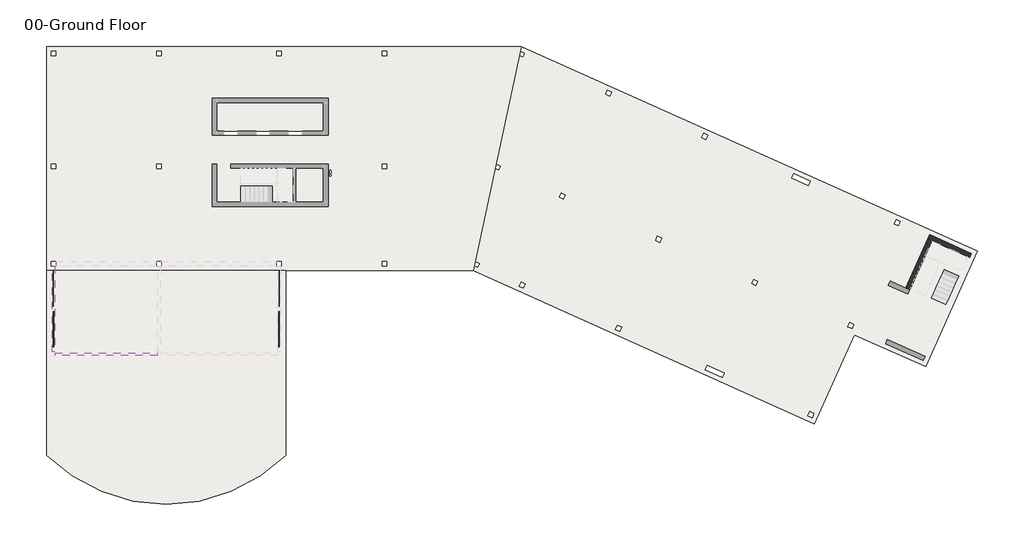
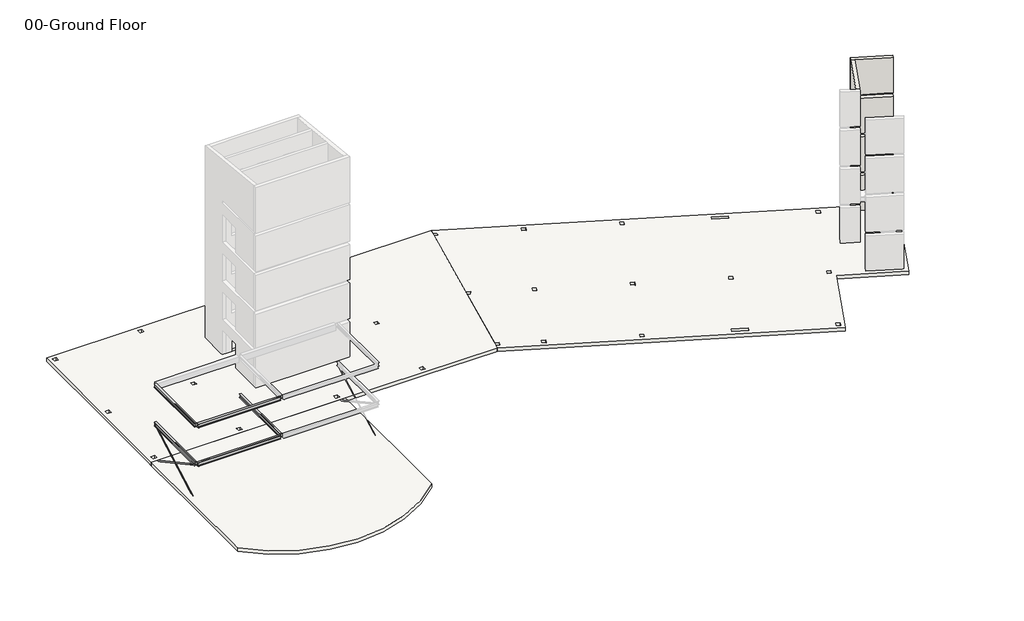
# One storey, part 2 of 5: 5 beams, 3 slabs, 2 members, 2 walls.
"""IFC4 building model written with IfcOpenShell, lengths in millimetres."""

from ifc_helpers import new_model, si_unit, frame, origin, place, context, project, spatial, polyline, circle_curve, faceted_brep, transform, mapped, element, save
from ifc_brep_helpers import plane_surface, cylinder_surface, revolved_surface, advanced_brep
from components import w_shapes_w12x26_268029d0, w_shapes_w12x26_8135fd55, flat_bars_fl_3_8x4_188fb4ee, flat_bars_fl_3_8x4_168c0369

model = new_model("IFC4")

# Units and contexts
model_context = context("Model", 3, world=origin())
ifc_project = project(units=[si_unit("LENGTHUNIT", "METRE", prefix="MILLI")], contexts=[model_context])

# Site, building, storey
site = spatial("IfcSite", under=ifc_project)
building = spatial("IfcBuilding", under=site)
storey = spatial("IfcBuildingStorey", under=building, Name="00-Ground Floor", Elevation=0.0)

# Beams
placement = place(None, origin())
w_shapes_w12x26_shape = w_shapes_w12x26_268029d0(model_context)
element("IfcBeam", 1, ObjectType="W Shapes : W12X26", at=placement, inside=storey, context=model_context, shape_type="MappedRepresentation", body=[
    mapped(w_shapes_w12x26_shape, transform((7010.4, -16998.95, 2994.66), x_axis=(0.0, 1.0, 0.0), y_axis=(-1.0, 0.0, 0.0), z_axis=(0.0, 0.0, 1.0))),
])
element("IfcBeam", 2, ObjectType="W Shapes : W12X26", at=placement, inside=storey, context=model_context, shape_type="MappedRepresentation", body=[
    mapped(w_shapes_w12x26_shape, transform((0.0, -16998.95, 2994.66), x_axis=(0.0, 1.0, 0.0), y_axis=(-1.0, 0.0, 0.0), z_axis=(0.0, 0.0, 1.0))),
])
element("IfcBeam", 3, ObjectType="W Shapes : W12X26", at=placement, inside=storey, context=model_context, shape_type="MappedRepresentation", body=[
    mapped(w_shapes_w12x26_shape, transform((0.0, -16998.95, 6347.46), x_axis=(0.0, 1.0, 0.0), y_axis=(-1.0, 0.0, 0.0), z_axis=(0.0, 0.0, 1.0))),
])
w_shapes_w12x26_2_shape = w_shapes_w12x26_8135fd55(model_context)
element("IfcBeam", 4, ObjectType="W Shapes : W12X26", at=placement, inside=storey, context=model_context, shape_type="MappedRepresentation", body=[
    mapped(w_shapes_w12x26_2_shape, transform((3505.2, -20002.5, 2994.66), x_axis=(-1.0, 0.0, 0.0), y_axis=(0.0, -1.0, 0.0), z_axis=(0.0, 0.0, 1.0))),
])
element("IfcBeam", 5, ObjectType="W Shapes : W12X26", at=placement, inside=storey, context=model_context, shape_type="MappedRepresentation", body=[
    mapped(w_shapes_w12x26_2_shape, transform((3505.2, -20002.5, 6347.46), x_axis=(-1.0, 0.0, 0.0), y_axis=(0.0, -1.0, 0.0), z_axis=(0.0, 0.0, 1.0))),
])

# Members
flat_bars_fl_3_8x4_shape = flat_bars_fl_3_8x4_188fb4ee(model_context)
element("IfcMember", 6, ObjectType="Flat Bars : FL 3/8X4", at=placement, inside=storey, context=model_context, shape_type="MappedRepresentation", body=[
    mapped(flat_bars_fl_3_8x4_shape, transform((9.525, -16998.95, 1344.93), x_axis=(0.0, 0.8764896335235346, 0.4814207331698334), y_axis=(-1.0, 0.0, 0.0), z_axis=(0.0, -0.4814207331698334, 0.8764896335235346))),
])
flat_bars_fl_3_8x4_2_shape = flat_bars_fl_3_8x4_168c0369(model_context)
element("IfcMember", 7, ObjectType="Flat Bars : FL 3/8X4", at=placement, inside=storey, context=model_context, shape_type="MappedRepresentation", body=[
    mapped(flat_bars_fl_3_8x4_2_shape, transform((0.0, -16998.95, 1344.93), x_axis=(0.0, -0.8764896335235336, 0.48142073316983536), y_axis=(1.0, 0.0, 0.0), z_axis=(0.0, 0.48142073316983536, 0.8764896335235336))),
])

# Slabs
element("IfcSlab", 8, ObjectType="RC Slab 12\"", at=placement, inside=storey, context=model_context, shape_type="SolidModel", body=[
    faceted_brep([(10858.5, -3289.3, -304.8), (12738.1, -3289.3, -304.8), (12992.1, -3289.3, -304.8), (14871.7, -3289.3, -304.8), (15125.7, -3289.3, -304.8), (17945.1, -3289.3, -304.8), (17945.1, -5168.9, -304.8), (15125.7, -5168.9, -304.8), (14871.7, -5168.9, -304.8), (12992.1, -5168.9, -304.8), (12738.1, -5168.9, -304.8), (10858.5, -5168.9, -304.8), (17945.1, -3289.3, 0.0), (15125.7, -3289.3, 0.0), (14871.7, -3289.3, 0.0), (12992.1, -3289.3, 0.0), (12738.1, -3289.3, 0.0), (10858.5, -3289.3, 0.0), (10858.5, -5168.9, 0.0), (12738.1, -5168.9, 0.0), (12992.1, -5168.9, 0.0), (14871.7, -5168.9, 0.0), (15125.7, -5168.9, 0.0), (17945.1, -5168.9, 0.0)], [[[0, 1, 2, 3, 4, 5, 6, 7, 8, 9, 10, 11]], [[12, 13, 14, 15, 16, 17, 18, 19, 20, 21, 22, 23]], [[5, 4, 3, 2, 1, 0, 17, 16, 15, 14, 13, 12]], [[0, 11, 18, 17]], [[6, 23, 22, 21, 20, 19, 18, 11, 10, 9, 8, 7]], [[6, 5, 12, 23]]]),
    advanced_brep(
    [(-457.2, 457.2, -304.8), (7010.4, 457.2, -304.8), (14998.7, 457.2, -304.8), (22009.1, 457.2, -304.8), (31098.7387393, 457.2, -304.8), (30902.7958822, -457.2, -304.8), (28099.7244536, -13538.2, -304.8), (27903.7815965, -14452.6, -304.8), (22009.1, -14452.6, -304.8), (15455.9, -14452.6, -304.8), (-457.2, -14452.6, -304.8), (-457.2, -13995.4, -304.8), (-457.2, -7505.7, -304.8), (18347.8020543, -8109.4381113, -304.8), (18449.4020543, -8109.4381113, -304.8), (18347.8020543, -7957.0381113, -304.8), (18449.4020543, -7957.0381113, -304.8), (18347.8020543, -7804.6381113, -304.8), (18449.4020543, -7804.6381113, -304.8), (152.4, -152.4, -304.8), (152.4, 152.4, -304.8), (-152.4, 152.4, -304.8), (-152.4, -152.4, -304.8), (7162.8, -152.4, -304.8), (7162.8, 152.4, -304.8), (6858.0, 152.4, -304.8), (6858.0, -152.4, -304.8), (15151.1, -152.4, -304.8), (15151.1, 152.4, -304.8), (14846.3, 152.4, -304.8), (14846.3, -152.4, -304.8), (22161.5, -152.4, -304.8), (22161.5, 152.4, -304.8), (21856.7, 152.4, -304.8), (21856.7, -152.4, -304.8), (22161.5, -7658.1, -304.8), (22161.5, -7353.3, -304.8), (21856.7, -7353.3, -304.8), (21856.7, -7658.1, -304.8), (7162.8, -7658.1, -304.8), (7162.8, -7353.3, -304.8), (6858.0, -7353.3, -304.8), (6858.0, -7658.1, -304.8), (152.4, -7658.1, -304.8), (152.4, -7353.3, -304.8), (-152.4, -7353.3, -304.8), (-152.4, -7658.1, -304.8), (152.4, -14147.8, -304.8), (152.4, -13843.0, -304.8), (-152.4, -13843.0, -304.8), (-152.4, -14147.8, -304.8), (15151.1, -14147.8, -304.8), (15151.1, -13843.0, -304.8), (14846.3, -13843.0, -304.8), (14846.3, -14147.8, -304.8), (22161.5, -14147.8, -304.8), (22161.5, -13843.0, -304.8), (21856.7, -13843.0, -304.8), (21856.7, -14147.8, -304.8), (7162.8, -14147.8, -304.8), (7162.8, -13843.0, -304.8), (6858.0, -13843.0, -304.8), (6858.0, -14147.8, -304.8), (10553.7, -5422.9, -304.8), (18249.9, -5422.9, -304.8), (18249.9, -2984.5, -304.8), (15252.7, -2984.5, -304.8), (14744.7, -2984.5, -304.8), (10553.7, -2984.5, -304.8), (31098.7387393, 457.2, 0.0), (-457.2, 457.2, 0.0), (-457.2, -14452.6, 0.0), (15455.9, -14452.6, 0.0), (27903.7815965, -14452.6, 0.0), (18449.4020543, -8109.4381113, 0.0), (18347.8020543, -8109.4381113, 0.0), (18449.4020543, -7957.0381113, 0.0), (18347.8020543, -7957.0381113, 0.0), (18449.4020543, -7804.6381113, 0.0), (18347.8020543, -7804.6381113, 0.0), (18249.9, -2984.5, 0.0), (18249.9, -3289.3, 0.0), (18249.9, -5422.9, 0.0), (17945.1, -5422.9, 0.0), (10553.7, -5422.9, 0.0), (10553.7, -5168.9, 0.0), (10553.7, -2984.5, 0.0), (10858.5, -2984.5, 0.0), (152.4, 152.4, 0.0), (152.4, -152.4, 0.0), (-152.4, -152.4, 0.0), (-152.4, 152.4, 0.0), (7162.8, 152.4, 0.0), (7162.8, -152.4, 0.0), (6858.0, -152.4, 0.0), (6858.0, 152.4, 0.0), (15151.1, 152.4, 0.0), (15151.1, -152.4, 0.0), (14846.3, -152.4, 0.0), (14846.3, 152.4, 0.0), (22161.5, 152.4, 0.0), (22161.5, -152.4, 0.0), (21856.7, -152.4, 0.0), (21856.7, 152.4, 0.0), (22161.5, -7353.3, 0.0), (22161.5, -7658.1, 0.0), (21856.7, -7658.1, 0.0), (21856.7, -7353.3, 0.0), (7162.8, -7353.3, 0.0), (7162.8, -7658.1, 0.0), (6858.0, -7658.1, 0.0), (6858.0, -7353.3, 0.0), (152.4, -7353.3, 0.0), (152.4, -7658.1, 0.0), (-152.4, -7658.1, 0.0), (-152.4, -7353.3, 0.0), (152.4, -13843.0, 0.0), (152.4, -14147.8, 0.0), (-152.4, -14147.8, 0.0), (-152.4, -13843.0, 0.0), (15151.1, -13843.0, 0.0), (15151.1, -14147.8, 0.0), (14846.3, -14147.8, 0.0), (14846.3, -13843.0, 0.0), (22161.5, -13843.0, 0.0), (22161.5, -14147.8, 0.0), (21856.7, -14147.8, 0.0), (21856.7, -13843.0, 0.0), (7162.8, -13843.0, 0.0), (7162.8, -14147.8, 0.0), (6858.0, -14147.8, 0.0), (6858.0, -13843.0, 0.0)],
    [
        (0, 1),
        (1, 2),
        (2, 3),
        (3, 4),
        (4, 5),
        (5, 6),
        (6, 7),
        (7, 8),
        (8, 9),
        (9, 10),
        (10, 11),
        (11, 12),
        (12, 0),
        (13, 14, circle_curve(frame((18398.6020543, -8109.4381113, -304.8), z_axis=(0.0, 0.0, 1.0), x_axis=(1.0, 0.0, 0.0)), 50.8)),
        (14, 13, circle_curve(frame((18398.6020543, -8109.4381113, -304.8), z_axis=(0.0, 0.0, 1.0), x_axis=(1.0, 0.0, 0.0)), 50.8)),
        (15, 16, circle_curve(frame((18398.6020543, -7957.0381113, -304.8), z_axis=(0.0, 0.0, 1.0), x_axis=(1.0, 0.0, 0.0)), 50.8)),
        (16, 15, circle_curve(frame((18398.6020543, -7957.0381113, -304.8), z_axis=(0.0, 0.0, 1.0), x_axis=(1.0, 0.0, 0.0)), 50.8)),
        (17, 18, circle_curve(frame((18398.6020543, -7804.6381113, -304.8), z_axis=(0.0, 0.0, 1.0), x_axis=(1.0, 0.0, 0.0)), 50.8)),
        (18, 17, circle_curve(frame((18398.6020543, -7804.6381113, -304.8), z_axis=(0.0, 0.0, 1.0), x_axis=(1.0, 0.0, 0.0)), 50.8)),
        (19, 20),
        (20, 21),
        (21, 22),
        (22, 19),
        (23, 24),
        (24, 25),
        (25, 26),
        (26, 23),
        (27, 28),
        (28, 29),
        (29, 30),
        (30, 27),
        (31, 32),
        (32, 33),
        (33, 34),
        (34, 31),
        (35, 36),
        (36, 37),
        (37, 38),
        (38, 35),
        (39, 40),
        (40, 41),
        (41, 42),
        (42, 39),
        (43, 44),
        (44, 45),
        (45, 46),
        (46, 43),
        (47, 48),
        (48, 49),
        (49, 50),
        (50, 47),
        (51, 52),
        (52, 53),
        (53, 54),
        (54, 51),
        (55, 56),
        (56, 57),
        (57, 58),
        (58, 55),
        (59, 60),
        (60, 61),
        (61, 62),
        (62, 59),
        (63, 64),
        (64, 65),
        (65, 66),
        (66, 67),
        (67, 68),
        (68, 63),
        (69, 70),
        (70, 71),
        (71, 72),
        (72, 73),
        (73, 69),
        (74, 75, circle_curve(frame((18398.6020543, -8109.4381113, 0.0), z_axis=(0.0, 0.0, -1.0), x_axis=(1.0, 0.0, 0.0)), 50.8)),
        (75, 74, circle_curve(frame((18398.6020543, -8109.4381113, 0.0), z_axis=(0.0, 0.0, -1.0), x_axis=(1.0, 0.0, 0.0)), 50.8)),
        (76, 77, circle_curve(frame((18398.6020543, -7957.0381113, 0.0), z_axis=(0.0, 0.0, -1.0), x_axis=(1.0, 0.0, 0.0)), 50.8)),
        (77, 76, circle_curve(frame((18398.6020543, -7957.0381113, 0.0), z_axis=(0.0, 0.0, -1.0), x_axis=(1.0, 0.0, 0.0)), 50.8)),
        (78, 79, circle_curve(frame((18398.6020543, -7804.6381113, 0.0), z_axis=(0.0, 0.0, -1.0), x_axis=(1.0, 0.0, 0.0)), 50.8)),
        (79, 78, circle_curve(frame((18398.6020543, -7804.6381113, 0.0), z_axis=(0.0, 0.0, -1.0), x_axis=(1.0, 0.0, 0.0)), 50.8)),
        (80, 81),
        (81, 82),
        (82, 83),
        (83, 84),
        (84, 85),
        (85, 86),
        (86, 87),
        (87, 80),
        (88, 89),
        (89, 90),
        (90, 91),
        (91, 88),
        (92, 93),
        (93, 94),
        (94, 95),
        (95, 92),
        (96, 97),
        (97, 98),
        (98, 99),
        (99, 96),
        (100, 101),
        (101, 102),
        (102, 103),
        (103, 100),
        (104, 105),
        (105, 106),
        (106, 107),
        (107, 104),
        (108, 109),
        (109, 110),
        (110, 111),
        (111, 108),
        (112, 113),
        (113, 114),
        (114, 115),
        (115, 112),
        (116, 117),
        (117, 118),
        (118, 119),
        (119, 116),
        (120, 121),
        (121, 122),
        (122, 123),
        (123, 120),
        (124, 125),
        (125, 126),
        (126, 127),
        (127, 124),
        (128, 129),
        (129, 130),
        (130, 131),
        (131, 128),
        (0, 70),
        (69, 4),
        (73, 7),
        (71, 10),
        (13, 75),
        (74, 14),
        (15, 77),
        (76, 16),
        (17, 79),
        (78, 18),
        (65, 80),
        (86, 68),
        (64, 82),
        (84, 63),
        (19, 89),
        (88, 20),
        (22, 90),
        (21, 91),
        (23, 93),
        (92, 24),
        (26, 94),
        (25, 95),
        (27, 97),
        (96, 28),
        (30, 98),
        (29, 99),
        (31, 101),
        (100, 32),
        (34, 102),
        (33, 103),
        (35, 105),
        (104, 36),
        (38, 106),
        (37, 107),
        (39, 109),
        (108, 40),
        (42, 110),
        (41, 111),
        (43, 113),
        (112, 44),
        (46, 114),
        (45, 115),
        (47, 117),
        (116, 48),
        (50, 118),
        (49, 119),
        (51, 121),
        (120, 52),
        (54, 122),
        (53, 123),
        (55, 125),
        (124, 56),
        (58, 126),
        (57, 127),
        (59, 129),
        (128, 60),
        (62, 130),
        (61, 131),
    ],
    [
        plane_surface(frame((0.0, 457.2, -304.8), z_axis=(0.0, 0.0, -1.0), x_axis=(1.0, 0.0, 0.0))),
        plane_surface(frame((0.0, 457.2, 0.0), z_axis=(0.0, 0.0, 1.0), x_axis=(-1.0, 0.0, 0.0))),
        plane_surface(frame((-457.2, 457.2, -304.8), z_axis=(0.0, 1.0, 0.0), x_axis=(0.0, 0.0, 1.0))),
        plane_surface(frame((31098.7387393, 457.2, -304.8), z_axis=(0.9778024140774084, -0.2095290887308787, 0.0), x_axis=(0.0, 0.0, 1.0))),
        plane_surface(frame((27903.7815965, -14452.6, -304.8), z_axis=(0.0, -1.0, 0.0), x_axis=(0.0, 0.0, 1.0))),
        plane_surface(frame((-457.2, -14452.6, -304.8), z_axis=(-1.0, 0.0, 0.0), x_axis=(0.0, 0.0, 1.0))),
        revolved_surface(polyline([(18449.4020543, -8109.4381113, 0.0), (18449.4020543, -8109.4381113, -304.8)]), (18398.6020543, -8109.4381113, -609.6), (0.0, 0.0, 1.0)),
        revolved_surface(polyline([(18449.4020543, -7957.0381113, 0.0), (18449.4020543, -7957.0381113, -304.8)]), (18398.6020543, -7957.0381113, -609.6), (0.0, 0.0, 1.0)),
        revolved_surface(polyline([(18449.4020543, -7804.6381113, 0.0), (18449.4020543, -7804.6381113, -304.8)]), (18398.6020543, -7804.6381113, -609.6), (0.0, 0.0, 1.0)),
        plane_surface(frame((17694.8895727, -2984.5, -2133.6), z_axis=(0.0, -1.0, 0.0), x_axis=(-1.0, 0.0, 0.0))),
        plane_surface(frame((18249.9, -6083.3, -2133.6), z_axis=(-1.0, 0.0, 0.0), x_axis=(0.0, 1.0, 0.0))),
        plane_surface(frame((10553.7, -5829.3, -2133.6), z_axis=(1.0, 0.0, 0.0), x_axis=(0.0, -1.0, 0.0))),
        plane_surface(frame((10706.1, -5422.9, -2133.6), z_axis=(0.0, 1.0, 0.0), x_axis=(1.0, 0.0, 0.0))),
        plane_surface(frame((152.4, -152.4, 10058.4), z_axis=(-1.0, 0.0, 0.0), x_axis=(0.0, 0.0, -1.0))),
        plane_surface(frame((-152.4, -152.4, 10058.4), z_axis=(0.0, 1.0, 0.0), x_axis=(0.0, 0.0, -1.0))),
        plane_surface(frame((-152.4, 152.4, 10058.4), z_axis=(1.0, 0.0, 0.0), x_axis=(0.0, 0.0, -1.0))),
        plane_surface(frame((152.4, 152.4, 10058.4), z_axis=(0.0, -1.0, 0.0), x_axis=(0.0, 0.0, -1.0))),
        plane_surface(frame((7162.8, -152.4, 10058.4), z_axis=(-1.0, 0.0, 0.0), x_axis=(0.0, 0.0, -1.0))),
        plane_surface(frame((6858.0, -152.4, 10058.4), z_axis=(0.0, 1.0, 0.0), x_axis=(0.0, 0.0, -1.0))),
        plane_surface(frame((6858.0, 152.4, 10058.4), z_axis=(1.0, 0.0, 0.0), x_axis=(0.0, 0.0, -1.0))),
        plane_surface(frame((7162.8, 152.4, 10058.4), z_axis=(0.0, -1.0, 0.0), x_axis=(0.0, 0.0, -1.0))),
        plane_surface(frame((15151.1, -152.4, 10058.4), z_axis=(-1.0, 0.0, 0.0), x_axis=(0.0, 0.0, -1.0))),
        plane_surface(frame((14846.3, -152.4, 10058.4), z_axis=(0.0, 1.0, 0.0), x_axis=(0.0, 0.0, -1.0))),
        plane_surface(frame((14846.3, 152.4, 10058.4), z_axis=(1.0, 0.0, 0.0), x_axis=(0.0, 0.0, -1.0))),
        plane_surface(frame((15151.1, 152.4, 10058.4), z_axis=(0.0, -1.0, 0.0), x_axis=(0.0, 0.0, -1.0))),
        plane_surface(frame((22161.5, -152.4, 10058.4), z_axis=(-1.0, 0.0, 0.0), x_axis=(0.0, 0.0, -1.0))),
        plane_surface(frame((21856.7, -152.4, 10058.4), z_axis=(0.0, 1.0, 0.0), x_axis=(0.0, 0.0, -1.0))),
        plane_surface(frame((21856.7, 152.4, 10058.4), z_axis=(1.0, 0.0, 0.0), x_axis=(0.0, 0.0, -1.0))),
        plane_surface(frame((22161.5, 152.4, 10058.4), z_axis=(0.0, -1.0, 0.0), x_axis=(0.0, 0.0, -1.0))),
        plane_surface(frame((22161.5, -7658.1, 10058.4), z_axis=(-1.0, 0.0, 0.0), x_axis=(0.0, 0.0, -1.0))),
        plane_surface(frame((21856.7, -7658.1, 10058.4), z_axis=(0.0, 1.0, 0.0), x_axis=(0.0, 0.0, -1.0))),
        plane_surface(frame((21856.7, -7353.3, 10058.4), z_axis=(1.0, 0.0, 0.0), x_axis=(0.0, 0.0, -1.0))),
        plane_surface(frame((22161.5, -7353.3, 10058.4), z_axis=(0.0, -1.0, 0.0), x_axis=(0.0, 0.0, -1.0))),
        plane_surface(frame((7162.8, -7658.1, 10058.4), z_axis=(-1.0, 0.0, 0.0), x_axis=(0.0, 0.0, -1.0))),
        plane_surface(frame((6858.0, -7658.1, 10058.4), z_axis=(0.0, 1.0, 0.0), x_axis=(0.0, 0.0, -1.0))),
        plane_surface(frame((6858.0, -7353.3, 10058.4), z_axis=(1.0, 0.0, 0.0), x_axis=(0.0, 0.0, -1.0))),
        plane_surface(frame((7162.8, -7353.3, 10058.4), z_axis=(0.0, -1.0, 0.0), x_axis=(0.0, 0.0, -1.0))),
        plane_surface(frame((152.4, -7658.1, 10058.4), z_axis=(-1.0, 0.0, 0.0), x_axis=(0.0, 0.0, -1.0))),
        plane_surface(frame((-152.4, -7658.1, 10058.4), z_axis=(0.0, 1.0, 0.0), x_axis=(0.0, 0.0, -1.0))),
        plane_surface(frame((-152.4, -7353.3, 10058.4), z_axis=(1.0, 0.0, 0.0), x_axis=(0.0, 0.0, -1.0))),
        plane_surface(frame((152.4, -7353.3, 10058.4), z_axis=(0.0, -1.0, 0.0), x_axis=(0.0, 0.0, -1.0))),
        plane_surface(frame((152.4, -14147.8, 10058.4), z_axis=(-1.0, 0.0, 0.0), x_axis=(0.0, 0.0, -1.0))),
        plane_surface(frame((-152.4, -14147.8, 10058.4), z_axis=(0.0, 1.0, 0.0), x_axis=(0.0, 0.0, -1.0))),
        plane_surface(frame((-152.4, -13843.0, 10058.4), z_axis=(1.0, 0.0, 0.0), x_axis=(0.0, 0.0, -1.0))),
        plane_surface(frame((152.4, -13843.0, 10058.4), z_axis=(0.0, -1.0, 0.0), x_axis=(0.0, 0.0, -1.0))),
        plane_surface(frame((15151.1, -14147.8, 10058.4), z_axis=(-1.0, 0.0, 0.0), x_axis=(0.0, 0.0, -1.0))),
        plane_surface(frame((14846.3, -14147.8, 10058.4), z_axis=(0.0, 1.0, 0.0), x_axis=(0.0, 0.0, -1.0))),
        plane_surface(frame((14846.3, -13843.0, 10058.4), z_axis=(1.0, 0.0, 0.0), x_axis=(0.0, 0.0, -1.0))),
        plane_surface(frame((15151.1, -13843.0, 10058.4), z_axis=(0.0, -1.0, 0.0), x_axis=(0.0, 0.0, -1.0))),
        plane_surface(frame((22161.5, -14147.8, 10058.4), z_axis=(-1.0, 0.0, 0.0), x_axis=(0.0, 0.0, -1.0))),
        plane_surface(frame((21856.7, -14147.8, 10058.4), z_axis=(0.0, 1.0, 0.0), x_axis=(0.0, 0.0, -1.0))),
        plane_surface(frame((21856.7, -13843.0, 10058.4), z_axis=(1.0, 0.0, 0.0), x_axis=(0.0, 0.0, -1.0))),
        plane_surface(frame((22161.5, -13843.0, 10058.4), z_axis=(0.0, -1.0, 0.0), x_axis=(0.0, 0.0, -1.0))),
        plane_surface(frame((7162.8, -14147.8, 10058.4), z_axis=(-1.0, 0.0, 0.0), x_axis=(0.0, 0.0, -1.0))),
        plane_surface(frame((6858.0, -14147.8, 10058.4), z_axis=(0.0, 1.0, 0.0), x_axis=(0.0, 0.0, -1.0))),
        plane_surface(frame((6858.0, -13843.0, 10058.4), z_axis=(1.0, 0.0, 0.0), x_axis=(0.0, 0.0, -1.0))),
        plane_surface(frame((7162.8, -13843.0, 10058.4), z_axis=(0.0, -1.0, 0.0), x_axis=(0.0, 0.0, -1.0))),
    ],
    [
        (0, [[1, 2, 3, 4, 5, 6, 7, 8, 9, 10, 11, 12, 13], [14, 15], [16, 17], [18, 19], [20, 21, 22, 23], [24, 25, 26, 27], [28, 29, 30, 31], [32, 33, 34, 35], [36, 37, 38, 39], [40, 41, 42, 43], [44, 45, 46, 47], [48, 49, 50, 51], [52, 53, 54, 55], [56, 57, 58, 59], [60, 61, 62, 63], [64, 65, 66, 67, 68, 69]]),
        (1, [[70, 71, 72, 73, 74], [75, 76], [77, 78], [79, 80], [81, 82, 83, 84, 85, 86, 87, 88], [89, 90, 91, 92], [93, 94, 95, 96], [97, 98, 99, 100], [101, 102, 103, 104], [105, 106, 107, 108], [109, 110, 111, 112], [113, 114, 115, 116], [117, 118, 119, 120], [121, 122, 123, 124], [125, 126, 127, 128], [129, 130, 131, 132]]),
        (2, [[-4, -3, -2, -1, 133, -70, 134]]),
        (3, [[-7, -6, -5, -134, -74, 135]]),
        (4, [[-10, -9, -8, -135, -73, -72, 136]]),
        (5, [[-13, -12, -11, -136, -71, -133]]),
        (6, [[137, -75, 138, -14]]),
        (6, [[-137, -15, -138, -76]]),
        (7, [[139, -77, 140, -16]]),
        (7, [[-139, -17, -140, -78]]),
        (8, [[141, -79, 142, -18]]),
        (8, [[-141, -19, -142, -80]]),
        (9, [[143, -88, -87, 144, -68, -67, -66]]),
        (10, [[-143, -65, 145, -82, -81]]),
        (11, [[-144, -86, -85, 146, -69]]),
        (12, [[-146, -84, -83, -145, -64]]),
        (13, [[147, -89, 148, -20]]),
        (14, [[-147, -23, 149, -90]]),
        (15, [[-149, -22, 150, -91]]),
        (16, [[-150, -21, -148, -92]]),
        (17, [[151, -93, 152, -24]]),
        (18, [[-151, -27, 153, -94]]),
        (19, [[-153, -26, 154, -95]]),
        (20, [[-154, -25, -152, -96]]),
        (21, [[155, -97, 156, -28]]),
        (22, [[-155, -31, 157, -98]]),
        (23, [[-157, -30, 158, -99]]),
        (24, [[-158, -29, -156, -100]]),
        (25, [[159, -101, 160, -32]]),
        (26, [[-159, -35, 161, -102]]),
        (27, [[-161, -34, 162, -103]]),
        (28, [[-162, -33, -160, -104]]),
        (29, [[163, -105, 164, -36]]),
        (30, [[-163, -39, 165, -106]]),
        (31, [[-165, -38, 166, -107]]),
        (32, [[-166, -37, -164, -108]]),
        (33, [[167, -109, 168, -40]]),
        (34, [[-167, -43, 169, -110]]),
        (35, [[-169, -42, 170, -111]]),
        (36, [[-170, -41, -168, -112]]),
        (37, [[171, -113, 172, -44]]),
        (38, [[-171, -47, 173, -114]]),
        (39, [[-173, -46, 174, -115]]),
        (40, [[-174, -45, -172, -116]]),
        (41, [[175, -117, 176, -48]]),
        (42, [[-175, -51, 177, -118]]),
        (43, [[-177, -50, 178, -119]]),
        (44, [[-178, -49, -176, -120]]),
        (45, [[179, -121, 180, -52]]),
        (46, [[-179, -55, 181, -122]]),
        (47, [[-181, -54, 182, -123]]),
        (48, [[-182, -53, -180, -124]]),
        (49, [[183, -125, 184, -56]]),
        (50, [[-183, -59, 185, -126]]),
        (51, [[-185, -58, 186, -127]]),
        (52, [[-186, -57, -184, -128]]),
        (53, [[187, -129, 188, -60]]),
        (54, [[-187, -63, 189, -130]]),
        (55, [[-189, -62, 190, -131]]),
        (56, [[-190, -61, -188, -132]]),
    ],
),
])
element("IfcSlab", 9, ObjectType="RC Slab 12\"", at=placement, inside=storey, context=model_context, shape_type="Brep", body=[
    faceted_brep([(61413.0546278, -13159.9258537, -304.8), (57962.8673107, -20840.7, -304.8), (53236.2370668, -18717.5078049, -304.8), (50577.0429205, -24637.3804878, -304.8), (37370.2819449, -18704.9317073, -304.8), (27903.7815965, -14452.6, -304.8), (27969.0988162, -14147.786308, -304.8), (28217.3432689, -14259.3121951, -304.8), (28342.2369275, -13981.275122, -304.8), (28034.4045592, -13843.0124873, -304.8), (28099.7244536, -13538.2, -304.8), (29359.7488162, -7658.086308, -304.8), (29607.9932689, -7769.6121951, -304.8), (29732.8869275, -7491.575122, -304.8), (29425.0545592, -7353.3124873, -304.8), (30902.7958822, -457.2, -304.8), (30968.1131019, -152.386308, -304.8), (31216.3575546, -263.9121951, -304.8), (31341.2512132, 14.124878, -304.8), (31033.4188449, 152.3875127, -304.8), (31098.7387393, 457.2, -304.8), (43479.6634083, -5104.284878, -304.8), (37098.9356034, -2572.2146341, -304.8), (36820.8985303, -2447.3209756, -304.8), (36696.0048717, -2725.3580488, -304.8), (36974.0419449, -2850.2517073, -304.8), (43493.7882864, -5444.7687805, -304.8), (43215.7512132, -5319.875122, -304.8), (43090.8575546, -5597.9121951, -304.8), (43368.8946278, -5722.8058537, -304.8), (56283.4936522, -11189.8770732, -304.8), (56005.456579, -11064.9834146, -304.8), (55880.5629205, -11343.0204878, -304.8), (56158.5999937, -11467.9141463, -304.8), (53207.9873107, -18036.54, -304.8), (52929.9502376, -17911.6463415, -304.8), (52805.056579, -18189.6834146, -304.8), (53083.0936522, -18314.5770732, -304.8), (50548.7931644, -23956.4126829, -304.8), (50270.7560912, -23831.5190244, -304.8), (50145.8624327, -24109.5560976, -304.8), (50423.8995059, -24234.4497561, -304.8), (37759.0877985, -18211.3043902, -304.8), (37481.0507254, -18086.4107317, -304.8), (37356.1570668, -18364.4478049, -304.8), (37634.19414, -18489.3414634, -304.8), (31364.2351156, -15338.7502439, -304.8), (31086.1980425, -15213.8565854, -304.8), (30961.3043839, -15491.8936585, -304.8), (31239.3414571, -15616.7873171, -304.8), (34023.429262, -9418.877561, -304.8), (33745.3921888, -9293.9839024, -304.8), (33620.4985303, -9572.0209756, -304.8), (33898.5356034, -9696.9146341, -304.8), (40418.2819449, -12291.4317073, -304.8), (40140.2448717, -12166.5380488, -304.8), (40015.3512132, -12444.575122, -304.8), (40293.3882864, -12569.4687805, -304.8), (46813.1346278, -15163.9858537, -304.8), (46535.0975546, -15039.0921951, -304.8), (46410.2038961, -15317.1292683, -304.8), (46688.2409693, -15442.0229268, -304.8), (43333.95414, -21049.6614634, -304.8), (44446.1024327, -21549.2360976, -304.8), (44570.9960912, -21271.1990244, -304.8), (43458.8477985, -20771.6243902, -304.8), (49068.6546278, -8283.1258537, -304.8), (50180.8029205, -8782.7004878, -304.8), (50305.696579, -8504.6634146, -304.8), (49193.5482864, -8005.0887805, -304.8), (57962.8673107, -20840.7, 0.0), (61413.0546278, -13159.9258537, 0.0), (31098.7387393, 457.2, 0.0), (31033.4244536, 152.4, 0.0), (31341.2512132, 14.124878, 0.0), (31216.3575546, -263.9121951, 0.0), (30968.1131019, -152.386308, 0.0), (29425.0601679, -7353.3, 0.0), (29732.8869275, -7491.575122, 0.0), (29607.9932689, -7769.6121951, 0.0), (29359.7488162, -7658.086308, 0.0), (28034.4101679, -13843.0, 0.0), (28342.2369275, -13981.275122, 0.0), (28217.3432689, -14259.3121951, 0.0), (27969.0988162, -14147.786308, 0.0), (27903.7815965, -14452.6, 0.0), (50577.0429205, -24637.3804878, 0.0), (53236.2370668, -18717.5078049, 0.0), (36820.8985303, -2447.3209756, 0.0), (37098.9356034, -2572.2146341, 0.0), (36974.0419449, -2850.2517073, 0.0), (36696.0048717, -2725.3580488, 0.0), (43215.7512132, -5319.875122, 0.0), (43493.7882864, -5444.7687805, 0.0), (43368.8946278, -5722.8058537, 0.0), (43090.8575546, -5597.9121951, 0.0), (56005.456579, -11064.9834146, 0.0), (56283.4936522, -11189.8770732, 0.0), (56158.5999937, -11467.9141463, 0.0), (55880.5629205, -11343.0204878, 0.0), (52929.9502376, -17911.6463415, 0.0), (53207.9873107, -18036.54, 0.0), (53083.0936522, -18314.5770732, 0.0), (52805.056579, -18189.6834146, 0.0), (50270.7560912, -23831.5190244, 0.0), (50548.7931644, -23956.4126829, 0.0), (50423.8995059, -24234.4497561, 0.0), (50145.8624327, -24109.5560976, 0.0), (37481.0507254, -18086.4107317, 0.0), (37759.0877985, -18211.3043902, 0.0), (37634.19414, -18489.3414634, 0.0), (37356.1570668, -18364.4478049, 0.0), (31086.1980425, -15213.8565854, 0.0), (31364.2351156, -15338.7502439, 0.0), (31239.3414571, -15616.7873171, 0.0), (30961.3043839, -15491.8936585, 0.0), (33745.3921888, -9293.9839024, 0.0), (34023.429262, -9418.877561, 0.0), (33898.5356034, -9696.9146341, 0.0), (33620.4985303, -9572.0209756, 0.0), (40140.2448717, -12166.5380488, 0.0), (40418.2819449, -12291.4317073, 0.0), (40293.3882864, -12569.4687805, 0.0), (40015.3512132, -12444.575122, 0.0), (46535.0975546, -15039.0921951, 0.0), (46813.1346278, -15163.9858537, 0.0), (46688.2409693, -15442.0229268, 0.0), (46410.2038961, -15317.1292683, 0.0), (44446.1024327, -21549.2360976, 0.0), (43333.95414, -21049.6614634, 0.0), (43458.8477985, -20771.6243902, 0.0), (44570.9960912, -21271.1990244, 0.0), (50180.8029205, -8782.7004878, 0.0), (49068.6546278, -8283.1258537, 0.0), (49193.5482864, -8005.0887805, 0.0), (50305.696579, -8504.6634146, 0.0)], [[[0, 1, 2, 3, 4, 5, 6, 7, 8, 9, 10, 11, 12, 13, 14, 15, 16, 17, 18, 19, 20, 21], [22, 23, 24, 25], [26, 27, 28, 29], [30, 31, 32, 33], [34, 35, 36, 37], [38, 39, 40, 41], [42, 43, 44, 45], [46, 47, 48, 49], [50, 51, 52, 53], [54, 55, 56, 57], [58, 59, 60, 61], [62, 63, 64, 65], [66, 67, 68, 69]], [[70, 71, 72, 73, 74, 75, 76, 77, 78, 79, 80, 81, 82, 83, 84, 85, 86, 87], [88, 89, 90, 91], [92, 93, 94, 95], [96, 97, 98, 99], [100, 101, 102, 103], [104, 105, 106, 107], [108, 109, 110, 111], [112, 113, 114, 115], [116, 117, 118, 119], [120, 121, 122, 123], [124, 125, 126, 127], [128, 129, 130, 131], [132, 133, 134, 135]], [[1, 0, 71, 70]], [[2, 1, 70, 87]], [[3, 2, 87, 86]], [[5, 4, 3, 86, 85]], [[5, 85, 84, 6]], [[72, 20, 19, 73]], [[9, 81, 80, 11, 10]], [[76, 16, 15, 14, 77]], [[0, 21, 20, 72, 71]], [[8, 82, 81, 9]], [[82, 8, 7, 83]], [[83, 7, 6, 84]], [[18, 74, 73, 19]], [[74, 18, 17, 75]], [[75, 17, 16, 76]], [[13, 78, 77, 14]], [[78, 13, 12, 79]], [[79, 12, 11, 80]], [[22, 89, 88, 23]], [[89, 22, 25, 90]], [[90, 25, 24, 91]], [[91, 24, 23, 88]], [[26, 93, 92, 27]], [[93, 26, 29, 94]], [[94, 29, 28, 95]], [[95, 28, 27, 92]], [[30, 97, 96, 31]], [[97, 30, 33, 98]], [[98, 33, 32, 99]], [[99, 32, 31, 96]], [[34, 101, 100, 35]], [[101, 34, 37, 102]], [[102, 37, 36, 103]], [[103, 36, 35, 100]], [[38, 105, 104, 39]], [[105, 38, 41, 106]], [[106, 41, 40, 107]], [[107, 40, 39, 104]], [[42, 109, 108, 43]], [[109, 42, 45, 110]], [[110, 45, 44, 111]], [[111, 44, 43, 108]], [[46, 113, 112, 47]], [[113, 46, 49, 114]], [[114, 49, 48, 115]], [[115, 48, 47, 112]], [[50, 117, 116, 51]], [[117, 50, 53, 118]], [[118, 53, 52, 119]], [[119, 52, 51, 116]], [[54, 121, 120, 55]], [[121, 54, 57, 122]], [[122, 57, 56, 123]], [[123, 56, 55, 120]], [[58, 125, 124, 59]], [[125, 58, 61, 126]], [[126, 61, 60, 127]], [[127, 60, 59, 124]], [[62, 129, 128, 63]], [[64, 131, 130, 65]], [[63, 128, 131, 64]], [[129, 62, 65, 130]], [[66, 133, 132, 67]], [[68, 135, 134, 69]], [[67, 132, 135, 68]], [[133, 66, 69, 134]]]),
])
element("IfcSlab", 10, ObjectType="RC Slab 12\"", at=placement, inside=storey, context=model_context, shape_type="AdvancedBrep", body=[
    advanced_brep(
    [(15455.9, -26723.3402351, -304.8), (-457.2, -26723.3402351, -304.8), (-457.2, -20002.5, -304.8), (-457.2, -14452.6, -304.8), (15455.9, -14452.6, -304.8), (15455.9, -20002.5, -304.8), (15455.9, -26723.3402351, 0.0), (15455.9, -14452.6, 0.0), (-457.2, -14452.6, 0.0), (-457.2, -26723.3402351, 0.0)],
    [
        (0, 1, circle_curve(frame((7499.35, -18686.6508475, -304.8), z_axis=(0.0, 0.0, -1.0), x_axis=(1.0, 0.0, 0.0)), 11309.0699979)),
        (1, 2),
        (2, 3),
        (3, 4),
        (4, 5),
        (5, 0),
        (6, 7),
        (7, 8),
        (8, 9),
        (9, 6, circle_curve(frame((7499.35, -18686.6508475, 0.0), z_axis=(0.0, 0.0, 1.0), x_axis=(1.0, 0.0, 0.0)), 11309.0699979)),
        (1, 9),
        (8, 3),
        (7, 4),
        (6, 0),
    ],
    [
        plane_surface(frame((18808.4199979, -18686.6508475, -304.8), z_axis=(0.0, 0.0, -1.0), x_axis=(0.0, -1.0, 0.0))),
        plane_surface(frame((18808.4199979, -18686.6508475, 0.0), z_axis=(0.0, 0.0, 1.0), x_axis=(0.0, 1.0, 0.0))),
        plane_surface(frame((-457.2, -26723.3402351, -304.8), z_axis=(-1.0, 0.0, 0.0), x_axis=(0.0, 0.0, 1.0))),
        plane_surface(frame((-457.2, -14452.6, -304.8), z_axis=(0.0, 1.0, 0.0), x_axis=(0.0, 0.0, 1.0))),
        plane_surface(frame((15455.9, -14452.6, -304.8), z_axis=(1.0, 0.0, 0.0), x_axis=(0.0, 0.0, 1.0))),
        cylinder_surface(frame((7499.35, -18686.6508475, 0.0), z_axis=(0.0, 0.0, -1.0), x_axis=(1.0, 0.0, 0.0)), 11309.0699979),
    ],
    [
        (0, [[1, 2, 3, 4, 5, 6]]),
        (1, [[7, 8, 9, 10]]),
        (2, [[-3, -2, 11, -9, 12]]),
        (3, [[-4, -12, -8, 13]]),
        (4, [[-6, -5, -13, -7, 14]]),
        (5, [[-1, -14, -10, -11]]),
    ],
),
])

# Walls
element("IfcWall", 11, ObjectType="RC Wall 12\"", at=placement, inside=storey, context=model_context, shape_type="Brep", body=[
    faceted_brep([(56910.7599136, -15744.3200389, 0.0), (58382.896579, -12467.0634146, 0.0), (58382.896579, -12467.0634146, 3048.0), (56946.6195059, -15664.4897561, 3048.0), (56910.7599136, -15744.3200389, 3048.0), (58104.8595059, -12342.1697561, 0.0), (56632.7228404, -15619.4263804, 0.0), (56632.7228404, -15619.4263804, 3048.0), (58104.8595059, -12342.1697561, 3048.0)], [[[0, 1, 2, 3, 4]], [[5, 6, 7, 8]], [[1, 0, 6, 5]], [[6, 0, 4, 7]], [[3, 2, 8, 7, 4]], [[1, 5, 8, 2]]]),
    faceted_brep([(56946.6195059, -15664.4897561, 6705.6), (58382.896579, -12467.0634146, 6705.6), (58382.896579, -12467.0634146, 9753.6), (56946.6195059, -15664.4897561, 9753.6), (56910.7599136, -15744.3200389, 9753.6), (56910.7599136, -15744.3200389, 6705.6), (58104.8595059, -12342.1697561, 6705.6), (56632.7228404, -15619.4263804, 6705.6), (56632.7228404, -15619.4263804, 9753.6), (58104.8595059, -12342.1697561, 9753.6)], [[[0, 1, 2, 3, 4, 5]], [[6, 7, 8, 9]], [[7, 5, 4, 8]], [[1, 0, 5, 7, 6]], [[1, 6, 9, 2]], [[4, 3, 2, 9, 8]]]),
    faceted_brep([(58382.896579, -12467.0634146, 6400.8), (56946.6195059, -15664.4897561, 6400.8), (56910.7599136, -15744.3200389, 6400.8), (56910.7599136, -15744.3200389, 3352.8), (56946.6195059, -15664.4897561, 3352.8), (58382.896579, -12467.0634146, 3352.8), (56632.7228404, -15619.4263804, 6400.8), (58104.8595059, -12342.1697561, 6400.8), (58104.8595059, -12342.1697561, 3352.8), (56632.7228404, -15619.4263804, 3352.8)], [[[0, 1, 2, 3, 4, 5]], [[6, 7, 8, 9]], [[2, 6, 9, 3]], [[1, 0, 7, 6, 2]], [[5, 4, 3, 9, 8]], [[7, 0, 5, 8]]]),
    faceted_brep([(58382.896579, -12467.0634146, 13106.4), (56946.6195059, -15664.4897561, 13106.4), (56910.7599136, -15744.3200389, 13106.4), (56910.7599136, -15744.3200389, 10058.4), (56946.6195059, -15664.4897561, 10058.4), (58382.896579, -12467.0634146, 10058.4), (56632.7228404, -15619.4263804, 13106.4), (58104.8595059, -12342.1697561, 13106.4), (58104.8595059, -12342.1697561, 10058.4), (56632.7228404, -15619.4263804, 10058.4)], [[[0, 1, 2, 3, 4, 5]], [[6, 7, 8, 9]], [[2, 6, 9, 3]], [[1, 0, 7, 6, 2]], [[7, 0, 5, 8]], [[4, 3, 9, 8, 5]]]),
])
element("IfcWall", 12, ObjectType="RC Wall 12\"", at=placement, inside=storey, context=model_context, shape_type="Brep", body=[
    faceted_brep([(58104.8595059, -12342.1697561, 0.0), (58382.896579, -12467.0634146, 0.0), (60885.2302376, -13591.1063415, 0.0), (60885.2302376, -13591.1063415, 3048.0), (60746.211701, -13528.6595122, 3048.0), (58382.896579, -12467.0634146, 3048.0), (58104.8595059, -12342.1697561, 3048.0), (61010.1238961, -13313.0692683, 0.0), (58229.7531644, -12064.1326829, 0.0), (58229.7531644, -12064.1326829, 3048.0), (61010.1238961, -13313.0692683, 3048.0)], [[[0, 1, 2, 3, 4, 5, 6]], [[7, 8, 9, 10]], [[2, 1, 0, 8, 7]], [[2, 7, 10, 3]], [[8, 0, 6, 9]], [[4, 3, 10, 9, 6, 5]]]),
    faceted_brep([(60885.2302376, -13591.1063415, 9753.6), (60746.211701, -13528.6595122, 9753.6), (58382.896579, -12467.0634146, 9753.6), (58104.8595059, -12342.1697561, 9753.6), (58104.8595059, -12342.1697561, 6705.6), (58382.896579, -12467.0634146, 6705.6), (60746.211701, -13528.6595122, 6705.6), (60885.2302376, -13591.1063415, 6705.6), (58229.7531644, -12064.1326829, 9753.6), (61010.1238961, -13313.0692683, 9753.6), (61010.1238961, -13313.0692683, 6705.6), (58229.7531644, -12064.1326829, 6705.6)], [[[0, 1, 2, 3, 4, 5, 6, 7]], [[8, 9, 10, 11]], [[9, 0, 7, 10]], [[3, 8, 11, 4]], [[1, 0, 9, 8, 3, 2]], [[7, 6, 5, 4, 11, 10]]]),
    faceted_brep([(60746.211701, -13528.6595122, 10058.4), (60885.2302376, -13591.1063415, 10058.4), (60885.2302376, -13591.1063415, 13106.4), (60746.211701, -13528.6595122, 13106.4), (58382.896579, -12467.0634146, 13106.4), (58104.8595059, -12342.1697561, 13106.4), (58104.8595059, -12342.1697561, 10058.4), (58382.896579, -12467.0634146, 10058.4), (61010.1238961, -13313.0692683, 10058.4), (58229.7531644, -12064.1326829, 10058.4), (58229.7531644, -12064.1326829, 13106.4), (61010.1238961, -13313.0692683, 13106.4)], [[[0, 1, 2, 3, 4, 5, 6, 7]], [[8, 9, 10, 11]], [[1, 8, 11, 2]], [[9, 6, 5, 10]], [[1, 0, 7, 6, 9, 8]], [[5, 4, 3, 2, 11, 10]]]),
    faceted_brep([(60885.2302376, -13591.1063415, 6400.8), (60746.211701, -13528.6595122, 6400.8), (58382.896579, -12467.0634146, 6400.8), (58104.8595059, -12342.1697561, 6400.8), (58104.8595059, -12342.1697561, 3352.8), (58382.896579, -12467.0634146, 3352.8), (60746.211701, -13528.6595122, 3352.8), (60885.2302376, -13591.1063415, 3352.8), (58229.7531644, -12064.1326829, 6400.8), (61010.1238961, -13313.0692683, 6400.8), (61010.1238961, -13313.0692683, 3352.8), (58229.7531644, -12064.1326829, 3352.8)], [[[0, 1, 2, 3, 4, 5, 6, 7]], [[8, 9, 10, 11]], [[9, 0, 7, 10]], [[3, 8, 11, 4]], [[1, 0, 9, 8, 3, 2]], [[7, 6, 5, 4, 11, 10]]]),
])

save(model, "model.ifc")
